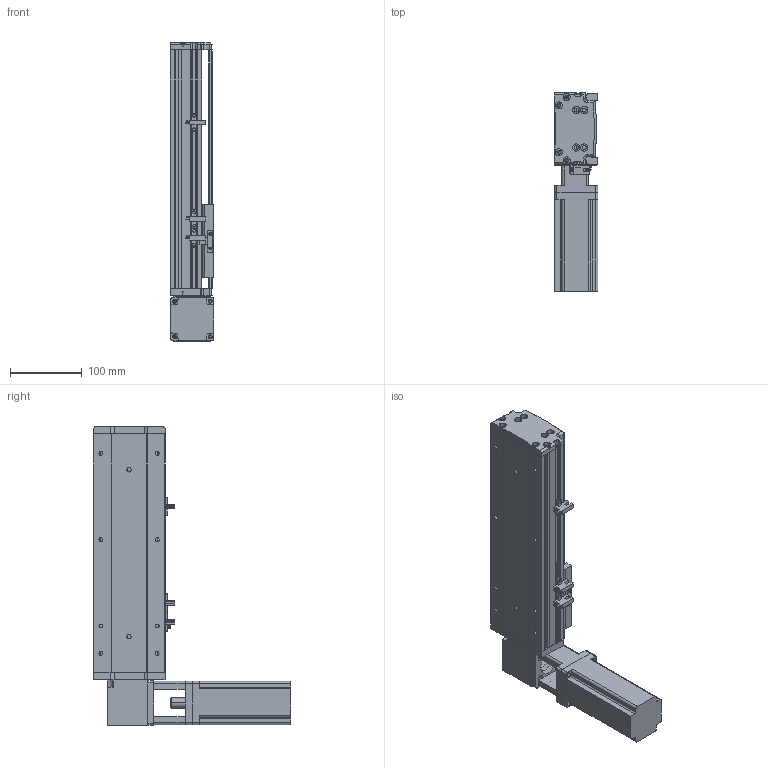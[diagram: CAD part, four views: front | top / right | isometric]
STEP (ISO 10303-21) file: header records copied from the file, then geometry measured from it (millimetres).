
FILE_DESCRIPTION (( 'STEP AP214' ), '1' );
FILE_NAME ('KSD100B-S150-MLT-CM.STEP', '2019-11-11T03:42:51', ( '微软用户' ), ( '微软中国' ), 'SwSTEP 2.0', 'SolidWorks 2014', '' );
FILE_SCHEMA (( 'AUTOMOTIVE_DESIGN' ));
Length unit declared in the file: millimetre
Products named in the file (12): KSD100B-S150-MLT-CM; 100宽安装板同步带带电机座400W,86; 100遵鎮湛假蚾啣1 ; 100宽防尘板150行程-同步带; U倰嫖萇EEㄜSX672; 覜茼え100遵圉猾敕; 台达ECMA－C20604AS伺服电机; 100宽马达安装板同步带右; 100宽同步带安装板半封闭; 100宽马达安装板同步带; 100遵傷啣肮祭湍; 100宽底板半封闭同步带150行程
Assembly tree (13 placements, depth 2):
  KSD100B-S150-MLT-CM
    100宽底板半封闭同步带150行程
    100遵傷啣肮祭湍
    100宽马达安装板同步带
    100宽同步带安装板半封闭
    100宽马达安装板同步带右
    台达ECMA－C20604AS伺服电机
    覜茼え100遵圉猾敕
    U倰嫖萇EEㄜSX672  x3
    100宽防尘板150行程-同步带
    100遵鎮湛假蚾啣1 
    100宽安装板同步带带电机座400W,86
Bounding box: 61 x 275 x 415 mm (x, y, z)
Volume: 1369858.4 mm3; surface area: 388007 mm2
Topology: 14 solids, 14 shells, 1236 faces, 3437 edges, 2217 vertices
Faces by surface type: cylinder 602, plane 551, cone 83
Entity records: 41329 total; most frequent: CARTESIAN_POINT 7394, DIRECTION 5913, ORIENTED_EDGE 5614, EDGE_CURVE 2807, AXIS2_PLACEMENT_3D 2154, VERTEX_POINT 1841, VECTOR 1605, LINE 1605
